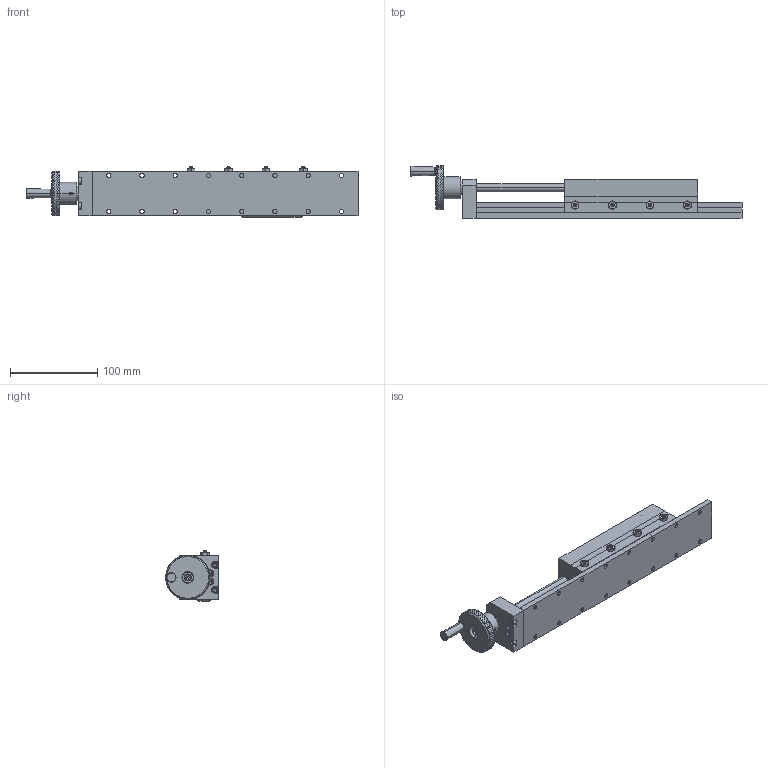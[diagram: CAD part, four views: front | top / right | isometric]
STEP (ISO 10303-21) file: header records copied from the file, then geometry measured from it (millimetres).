
FILE_DESCRIPTION (( 'STEP AP214' ), '1' );
FILE_NAME ('SW02-SL06-BL12-LS.STEP', '2011-11-04T18:54:19', ( '' ), ( '' ), 'SwSTEP 2.0', 'SolidWorks 2011', '' );
FILE_SCHEMA (( 'AUTOMOTIVE_DESIGN' ));
Length unit declared in the file: inch
Products named in the file (25): spring pin slotted_ai_SPS 0.125x1; 64425K71; 6121K94; 7806K62; Gen2 End Plate_02 EPLATE; socket head cap screw_ai_HX-SHCS 0.19-32x0.5x0.5-N; EW-10; Lead Screw_3_8-12 x 06.75 Lg; spring pin slotted_ai_SPS 0.125x0.75; Lead Nut_3_8-12; socket head cap screw_ai_HX-SHCS 0.164-32x0.75x0.75-N; Gen2 Nut Plate_02x06 NPLATE; Gen2 SLIDE_SW02-SL06-BL12; Gen2 SADDLE_02x06 SADDLE; machine screw nut hex_ai_MSHXNUT 0.164-32-D-N; socket set screw cup point_ai_SSCUPSKT 0.164-32x0.625-HX-N; Tag; Gen2 Bar_02x06 BAR; Gen2 Adj Gib_02x06 ADJ GIB; Gen2 Gib_02x06 GIB; Gen2 Top plate_02x06 TPLATE; Gen2 BASE_02x12 BASE; Gen2 Hardplate_02x12 HPLATE; Gen2 Baseplate_02x12 BASE; SW02-SL06-BL12-LS
Assembly tree (40 placements, depth 4):
  SW02-SL06-BL12-LS
    socket head cap screw_ai_HX-SHCS 0.19-32x0.5x0.5-N  x2
    EW-10  x2
    Lead Nut_3_8-12
    6121K94
    64425K71
    socket head cap screw_ai_HX-SHCS 0.164-32x0.75x0.75-N  x8
    7806K62  x2
    Gen2 SLIDE_SW02-SL06-BL12
      Gen2 SADDLE_02x06 SADDLE
        machine screw nut hex_ai_MSHXNUT 0.164-32-D-N  x4
        Gen2 Top plate_02x06 TPLATE
        socket set screw cup point_ai_SSCUPSKT 0.164-32x0.625-HX-N  x4
        Gen2 Adj Gib_02x06 ADJ GIB
        Gen2 Gib_02x06 GIB
        Tag
        Gen2 Bar_02x06 BAR
      Gen2 BASE_02x12 BASE
        Gen2 Hardplate_02x12 HPLATE
        Gen2 Baseplate_02x12 BASE
    Gen2 End Plate_02 EPLATE
    spring pin slotted_ai_SPS 0.125x0.75
    Gen2 Nut Plate_02x06 NPLATE
    Lead Screw_3_8-12 x 06.75 Lg
    spring pin slotted_ai_SPS 0.125x1
Bounding box: 380.65 x 60.33 x 58.05 mm (x, y, z)
Volume: 483749.5 mm3; surface area: 188653.2 mm2
Topology: 58 solids, 58 shells, 2517 faces, 6455 edges, 4159 vertices
Faces by surface type: plane 1725, cylinder 471, cone 191, torus 72, sphere 48, bspline 10
Entity records: 68885 total; most frequent: CARTESIAN_POINT 21781, ORIENTED_EDGE 10818, DIRECTION 8206, EDGE_CURVE 5409, VERTEX_POINT 3566, AXIS2_PLACEMENT_3D 3111, EDGE_LOOP 2389, ADVANCED_FACE 2097
